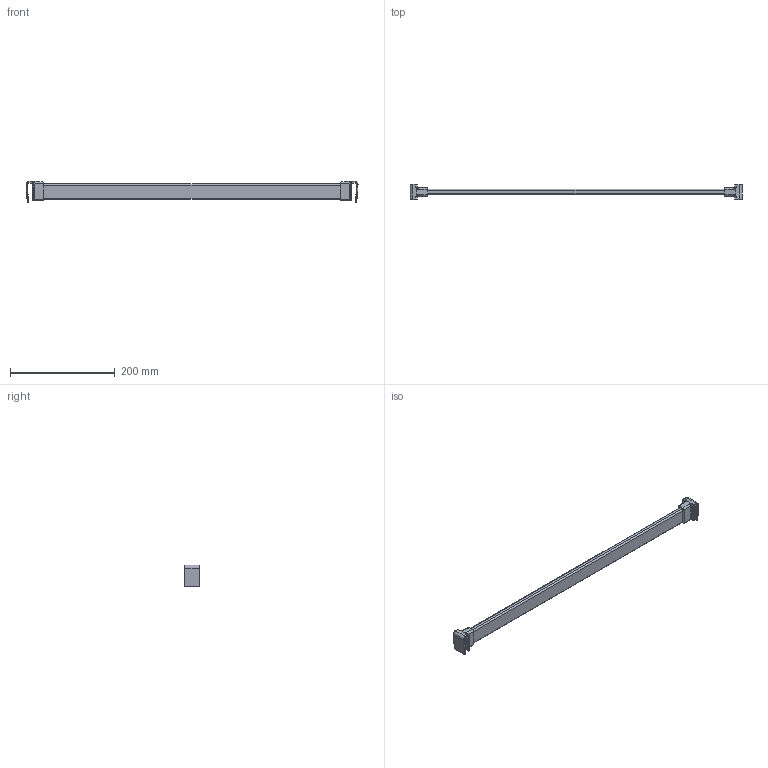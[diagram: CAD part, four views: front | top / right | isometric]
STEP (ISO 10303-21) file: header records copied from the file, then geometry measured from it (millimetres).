
FILE_DESCRIPTION (( 'STEP AP214' ), '1' );
FILE_NAME ('_Querreling_KAB-700_KS-19_P602_Glashalter.step', '2010-08-26T14:58:48', ( 'grass' ), ( '' ), 'SwSTEP 2.0', 'SolidWorks 2009', '' );
FILE_SCHEMA (( 'AUTOMOTIVE_DESIGN' ));
Length unit declared in the file: millimetre
Products named in the file (1): _Querreling_KAB-700_KS-19_P602_Glashalter
Bounding box: 634.78 x 30 x 41.5 mm (x, y, z)
Volume: 210302.2 mm3; surface area: 57770.5 mm2
Topology: 1 solids, 1 shells, 124 faces, 300 edges, 176 vertices
Faces by surface type: cylinder 58, plane 34, torus 16, bspline 12, sphere 4
Entity records: 5090 total; most frequent: CARTESIAN_POINT 2269, ORIENTED_EDGE 592, DIRECTION 590, EDGE_CURVE 296, AXIS2_PLACEMENT_3D 225, VERTEX_POINT 176, LINE 140, VECTOR 140
